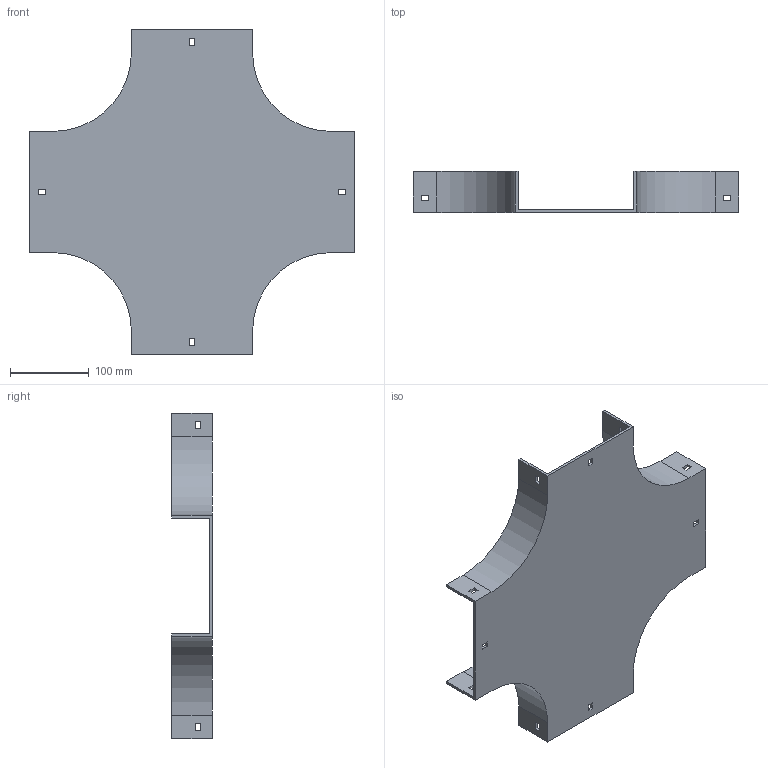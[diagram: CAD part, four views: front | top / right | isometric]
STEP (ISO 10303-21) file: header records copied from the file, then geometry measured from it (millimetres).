
FILE_DESCRIPTION (( 'STEP AP214' ), '1' );
FILE_NAME ('17F1B150.step', '2025-02-21T13:05:40', ( '' ), ( '' ), 'SwSTEP 2.0', 'SolidWorks 2023', '' );
FILE_SCHEMA (( 'AUTOMOTIVE_DESIGN' ));
Length unit declared in the file: millimetre
Products named in the file (1): 17F1B150
Bounding box: 414 x 52 x 414 mm (x, y, z)
Volume: 539814.8 mm3; surface area: 316404.7 mm2
Topology: 1 solids, 1 shells, 82 faces, 240 edges, 160 vertices
Faces by surface type: plane 74, cylinder 8
Entity records: 2751 total; most frequent: CARTESIAN_POINT 483, ORIENTED_EDGE 480, DIRECTION 422, EDGE_CURVE 240, LINE 224, VECTOR 224, VERTEX_POINT 160, EDGE_LOOP 106
